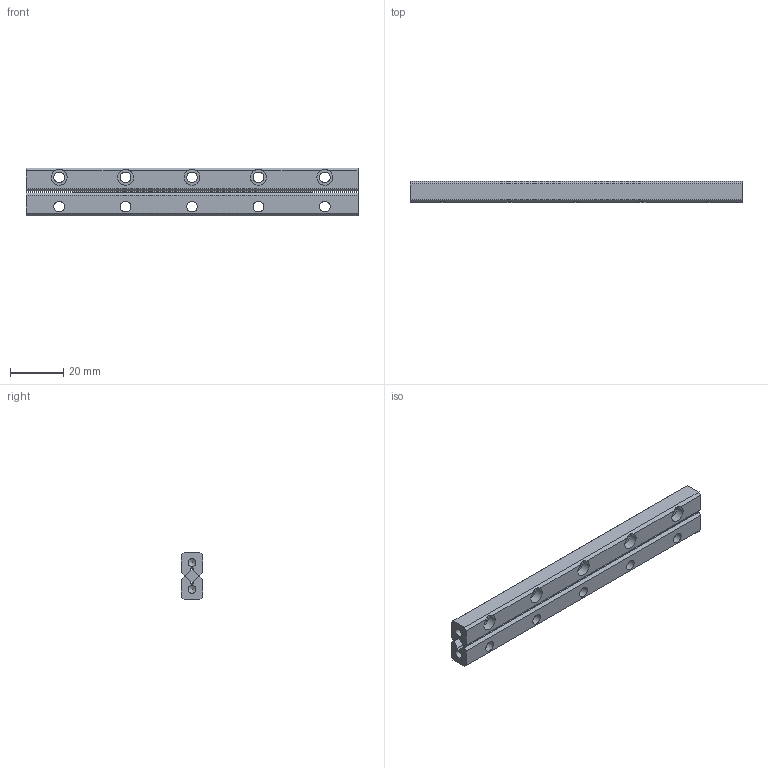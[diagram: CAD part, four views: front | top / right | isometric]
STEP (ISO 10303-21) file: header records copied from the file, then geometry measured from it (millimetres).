
FILE_DESCRIPTION((''),'2;1');
FILE_NAME('D:\製品 (図面)\カタログ用3D\リニアガイド関連\STEP形式\ACS3\ACS3125.stp','2010-07-29T15:29:39',('Tsuchiya'),(''),'Autodesk Inventor 10','Autodesk Inventor 10','');
FILE_SCHEMA(('AUTOMOTIVE_DESIGN { 1 0 10303 214 1 1 1 1 }'));
Length unit declared in the file: millimetre
Products named in the file (4): ACS3125; ACS31251; ACS31252; ACS31253
Assembly tree (3 placements, depth 2):
  ACS3125
    ACS31251
    ACS31252
    ACS31253
Bounding box: 125 x 8 x 18 mm (x, y, z)
Volume: 14809.7 mm3; surface area: 11361.3 mm2
Topology: 3 solids, 3 shells, 92 faces, 244 edges, 162 vertices
Faces by surface type: plane 52, bspline 34, cylinder 4, cone 2
Full cylindrical faces by diameter (mm): 3 x2
Entity records: 3025 total; most frequent: CARTESIAN_POINT 883, ORIENTED_EDGE 400, DIRECTION 392, EDGE_CURVE 200, VERTEX_POINT 146, EDGE_LOOP 144, VECTOR 138, LINE 138
